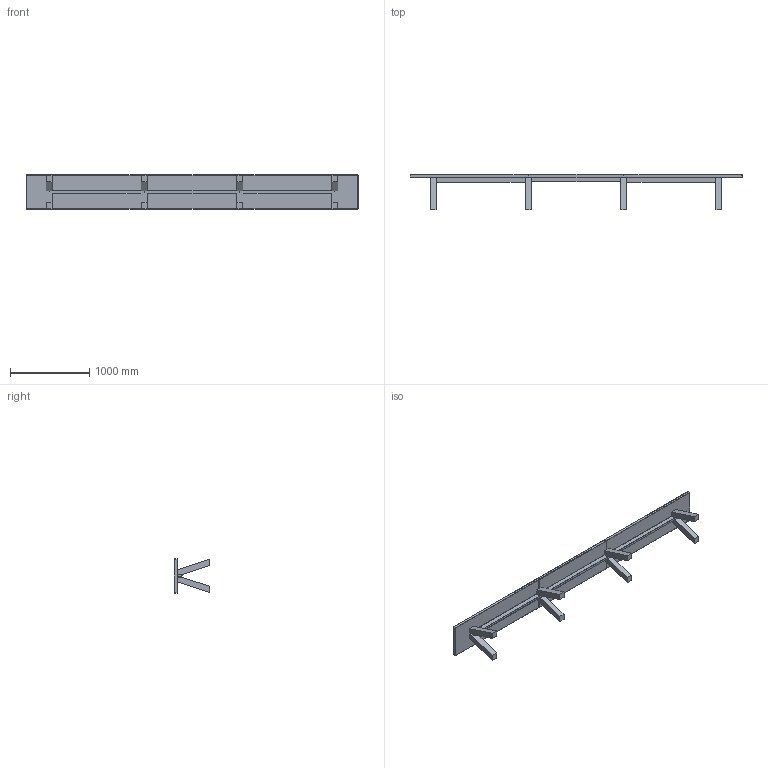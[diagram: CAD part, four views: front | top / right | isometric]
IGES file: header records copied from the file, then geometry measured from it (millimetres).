
Start section: SolidWorks IGES file using NURBS representation for surfaces
Global section: file name: W:\01-VICCARBE\PRODUCTOS\45-TRESTLE\04-MODELADOS (PLANOS)\WEB\IGES\viccarbe_trestle_triple.IGS; native system: SolidWorks 2013; preprocessor: SolidWorks 2013; author: Usuario; date: 140917.173307; units: millimetre
Bounding box: 4180 x 450 x 430 mm (x, y, z)
Surface area: 6336097.9 mm2 (no closed solid volume)
Topology: 0 solids, 0 shells, 170 faces, 708 edges, 696 vertices
Faces by surface type: bspline 170
